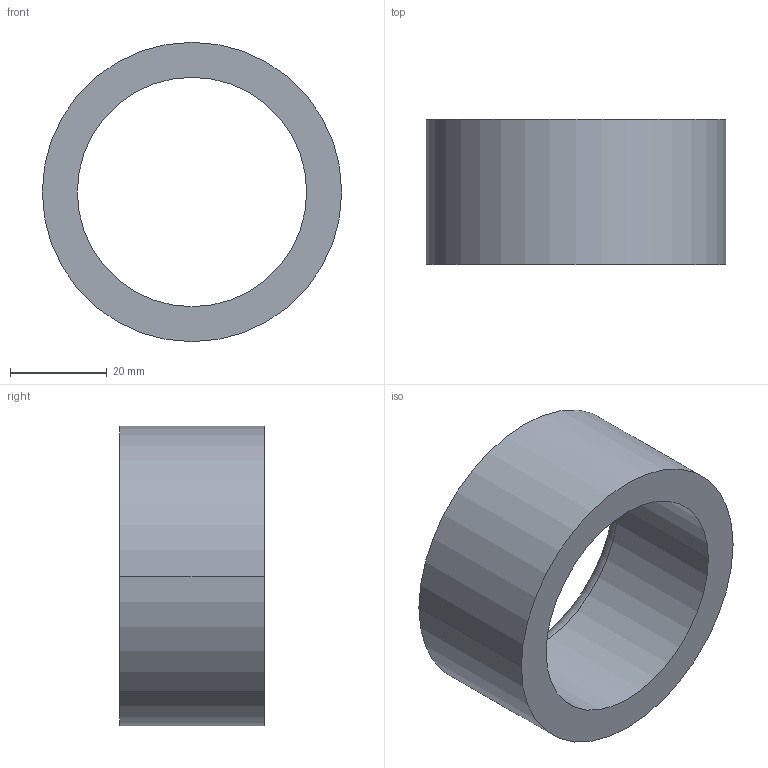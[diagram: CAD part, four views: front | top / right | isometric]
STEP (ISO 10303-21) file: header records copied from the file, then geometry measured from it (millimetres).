
FILE_DESCRIPTION (( 'STEP AP203' ), '1' );
FILE_NAME ('30800.WPP62L47.5.step', '2019-01-23T22:58:29', ( '' ), ( '' ), 'SwSTEP 2.0', 'SolidWorks 2017', '' );
FILE_SCHEMA (( 'CONFIG_CONTROL_DESIGN' ));
Length unit declared in the file: millimetre
Products named in the file (1): 30800.WPP62L47.5
Bounding box: 62 x 30 x 62 mm (x, y, z)
Volume: 37005.3 mm3; surface area: 12595.4 mm2
Topology: 1 solids, 1 shells, 8 faces, 16 edges, 10 vertices
Faces by surface type: cylinder 4, torus 2, plane 2
Entity records: 297 total; most frequent: DIRECTION 46, CARTESIAN_POINT 35, ORIENTED_EDGE 32, AXIS2_PLACEMENT_3D 21, EDGE_CURVE 16, CIRCLE 12, VERTEX_POINT 10, EDGE_LOOP 10
